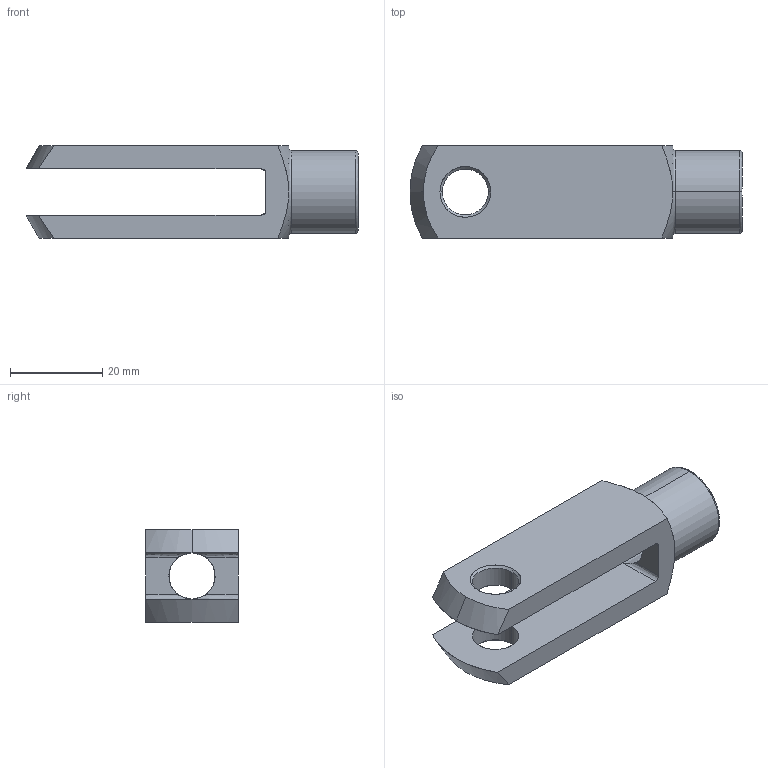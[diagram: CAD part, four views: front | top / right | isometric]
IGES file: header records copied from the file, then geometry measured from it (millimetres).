
Start section: SolidWorks IGES file using analytic representation for surfaces
Global section: file name: C:\Documents and Settings\IANO\My Documents\Wix and Auto CAD Work\CAD Models\Parametric Models\Wix Models\60000\65635_v2\65635_v2_IGES\65635.W0105.igs; native system: SolidWorks 2009; preprocessor: SolidWorks 2009; author: IANO; date: 140117.130546; units: millimetre
Bounding box: 72 x 20 x 20 mm (x, y, z)
Surface area: 7363.2 mm2 (no closed solid volume)
Topology: 0 solids, 0 shells, 39 faces, 592 edges, 592 vertices
Faces by surface type: revolution 25, bspline 14
